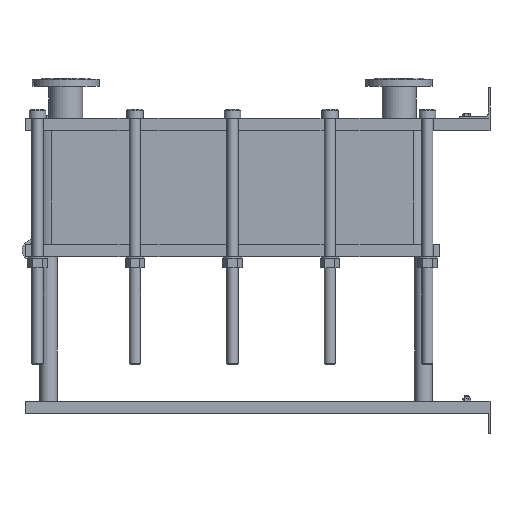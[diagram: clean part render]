
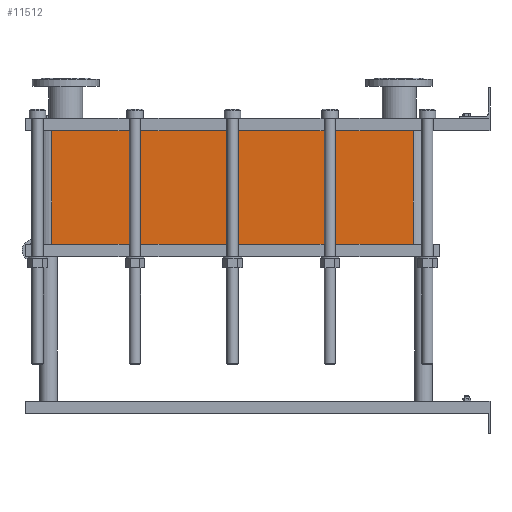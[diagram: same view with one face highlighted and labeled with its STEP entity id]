
A CAD part, left-side view. The second image highlights one B-rep face of the part: STEP entity #11512.
In plain terms, the highlighted planar face has unit normal (-1, 0, 0).
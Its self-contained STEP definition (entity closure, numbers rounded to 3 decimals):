
#1129=LINE('',#23232,#2102);
#1130=LINE('',#23236,#2103);
#1131=LINE('',#23238,#2104);
#1132=LINE('',#23239,#2105);
#2102=VECTOR('',#15887,10.);
#2103=VECTOR('',#15892,10.);
#2104=VECTOR('',#15893,10.);
#2105=VECTOR('',#15894,10.);
#3267=FACE_OUTER_BOUND('',#4093,.T.);
#4093=EDGE_LOOP('',(#10103,#10104,#10105,#10106));
#5642=VERTEX_POINT('',#23229);
#5643=VERTEX_POINT('',#23231);
#5644=VERTEX_POINT('',#23235);
#5645=VERTEX_POINT('',#23237);
#7159=EDGE_CURVE('',#5643,#5642,#1129,.T.);
#7161=EDGE_CURVE('',#5642,#5644,#1130,.T.);
#7162=EDGE_CURVE('',#5645,#5644,#1131,.T.);
#7163=EDGE_CURVE('',#5645,#5643,#1132,.T.);
#10103=ORIENTED_EDGE('',*,*,#7161,.T.);
#10104=ORIENTED_EDGE('',*,*,#7162,.F.);
#10105=ORIENTED_EDGE('',*,*,#7163,.T.);
#10106=ORIENTED_EDGE('',*,*,#7159,.T.);
#10857=PLANE('',#12751);
#11512=ADVANCED_FACE('',(#3267),#10857,.T.);
#12751=AXIS2_PLACEMENT_3D('',#23234,#15890,#15891);
#15887=DIRECTION('',(0.,0.,-1.));
#15890=DIRECTION('center_axis',(-1.,0.,0.));
#15891=DIRECTION('ref_axis',(0.,1.,0.));
#15892=DIRECTION('',(0.,-1.,0.));
#15893=DIRECTION('',(0.,0.,-1.));
#15894=DIRECTION('',(0.,1.,0.));
#23229=CARTESIAN_POINT('',(-200.,1414.,-365.7));
#23231=CARTESIAN_POINT('',(-200.,1414.,0.));
#23232=CARTESIAN_POINT('',(-200.,1414.,0.));
#23234=CARTESIAN_POINT('Origin',(-200.,248.,0.));
#23235=CARTESIAN_POINT('',(-200.,248.,-365.7));
#23236=CARTESIAN_POINT('',(-200.,539.5,-365.7));
#23237=CARTESIAN_POINT('',(-200.,248.,0.));
#23238=CARTESIAN_POINT('',(-200.,248.,0.));
#23239=CARTESIAN_POINT('',(-200.,248.,0.));
